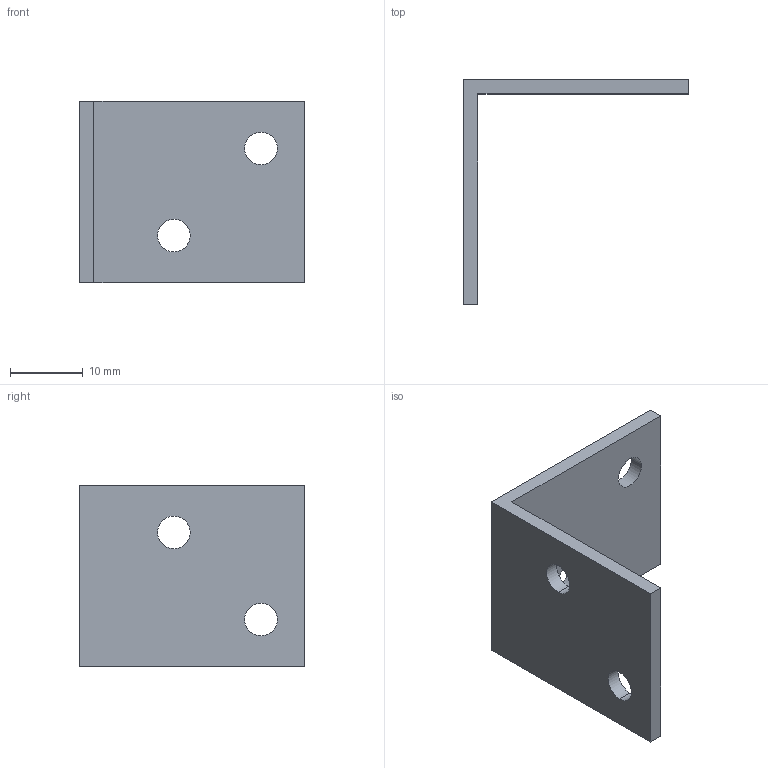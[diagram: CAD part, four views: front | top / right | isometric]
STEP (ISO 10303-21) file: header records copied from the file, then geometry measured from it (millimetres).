
FILE_DESCRIPTION( ( '' ), '1' );
FILE_NAME( 'D:/1.AUTOCAD EXPORT/Group 8.2/connector_fittings/Sunil/79665.stp', '2013-02-22T07:04:59', ( '' ), ( '' ), ' ', ' ', ' ' );
FILE_SCHEMA( ( 'CONFIG_CONTROL_DESIGN' ) );
Length unit declared in the file: millimetre
Products named in the file (1): 1
Bounding box: 31 x 31 x 25 mm (x, y, z)
Volume: 2872.8 mm3; surface area: 3325.9 mm2
Topology: 1 solids, 1 shells, 16 faces, 42 edges, 28 vertices
Faces by surface type: cylinder 8, plane 8
Entity records: 562 total; most frequent: DIRECTION 92, CARTESIAN_POINT 87, ORIENTED_EDGE 84, EDGE_CURVE 42, AXIS2_PLACEMENT_3D 33, VERTEX_POINT 28, LINE 26, VECTOR 26
